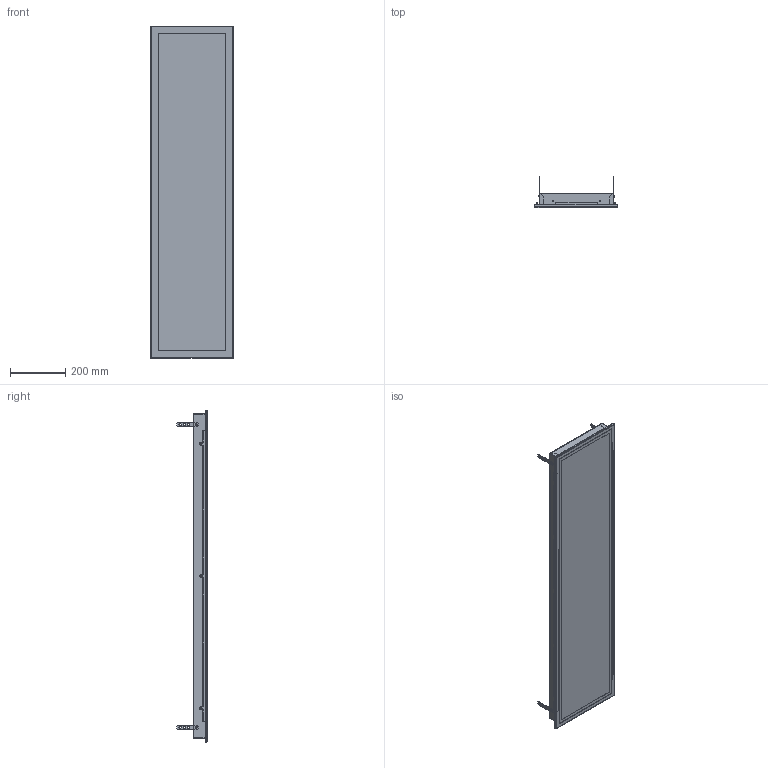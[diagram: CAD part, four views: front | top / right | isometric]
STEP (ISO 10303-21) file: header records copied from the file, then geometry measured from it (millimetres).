
FILE_DESCRIPTION(('STEP AP203'), '1');
FILE_NAME('ÄÊÏ008 03 002.00 ÑÁ - Ñâåòèëüíèê 1200õ300', '', ('UNSPECIFIED'), ('UNSPECIFIED'), 'ASCON STEP Converter 1.6', 'ASCON Math Kernel', '');
FILE_SCHEMA(('CONFIG_CONTROL_DESIGN'));
Length unit declared in the file: millimetre
Products named in the file (14): ДКП008 03 002.00 СБ; ДКП008 03 003.01; ДКП008 01 003.03; ДКП008 03 003.02; ДКП008 02 003.08; ДКП008 03 002.02; ДКП008 03 002.04; ДКП008 02 002.05; ДКП008 02 002.06
Assembly tree (25 placements, depth 3):
  ДКП008 03 002.00 СБ
    ДКП008 03 003.01
      ДКП008 03 003.01
      ДКП008 01 003.03  x4
      ДКП008 03 003.02  x2
      ДКП008 02 003.08  x2
    ДКП008 03 002.02
      ДКП008 03 002.04
      ДКП008 02 002.05
      ДКП008 02 002.06
    (unnamed)
    (unnamed)  x4
    (unnamed)  x3
    (unnamed)  x3
Bounding box: 299 x 110 x 1199 mm (x, y, z)
Volume: 1334806.9 mm3; surface area: 1984039.2 mm2
Topology: 23 solids, 23 shells, 695 faces, 1647 edges, 1028 vertices
Faces by surface type: plane 446, cylinder 169, bspline 48, torus 20, cone 12
Full cylindrical faces by diameter (mm): 1.85 x4, 2.2 x6, 2.5 x10, 3.2 x4, 3.5 x50, 4.4 x6, 4.5 x2, 8 x12, 20 x1
Entity records: 16418 total; most frequent: CARTESIAN_POINT 4023, DIRECTION 2310, ORIENTED_EDGE 2168, EDGE_CURVE 1084, AXIS2_PLACEMENT_3D 775, LINE 760, VECTOR 760, EDGE_LOOP 696
